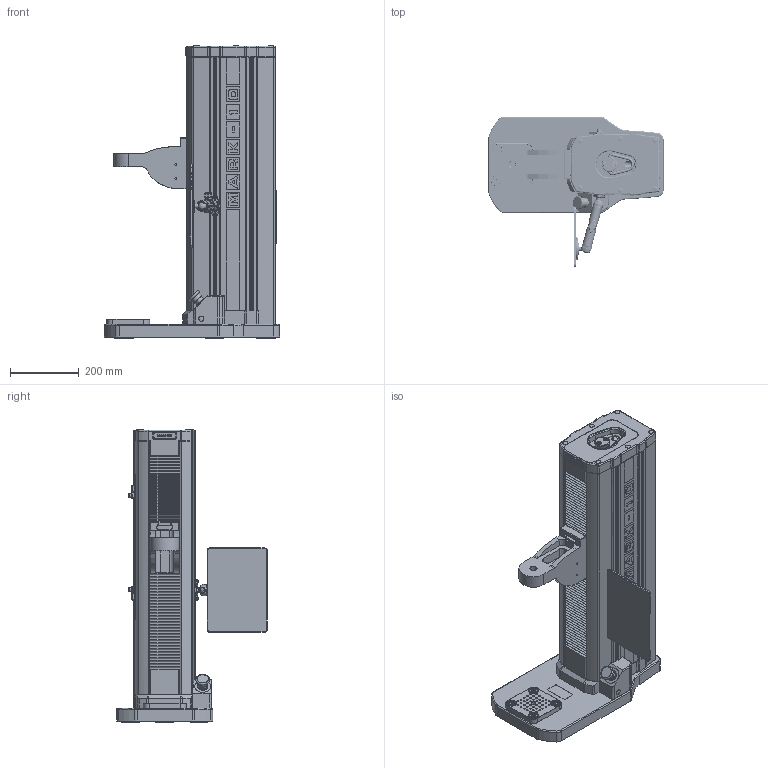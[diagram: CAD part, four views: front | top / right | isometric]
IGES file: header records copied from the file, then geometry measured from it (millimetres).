
Global section: file name: F755S_IMT; native system: Autodesk RealDWG; preprocessor: Autodesk Translation Framework DWG producer (atf_dwg_producer); organization: unknown; date: 20210205.153017; units: inch
Bounding box: 508 x 437.5 x 849.38 mm (x, y, z)
Volume: 39944164.2 mm3; surface area: 1823744 mm2
Topology: 5 solids, 12 shells, 8633 faces, 25714 edges, 17847 vertices
Faces by surface type: bspline 8633
